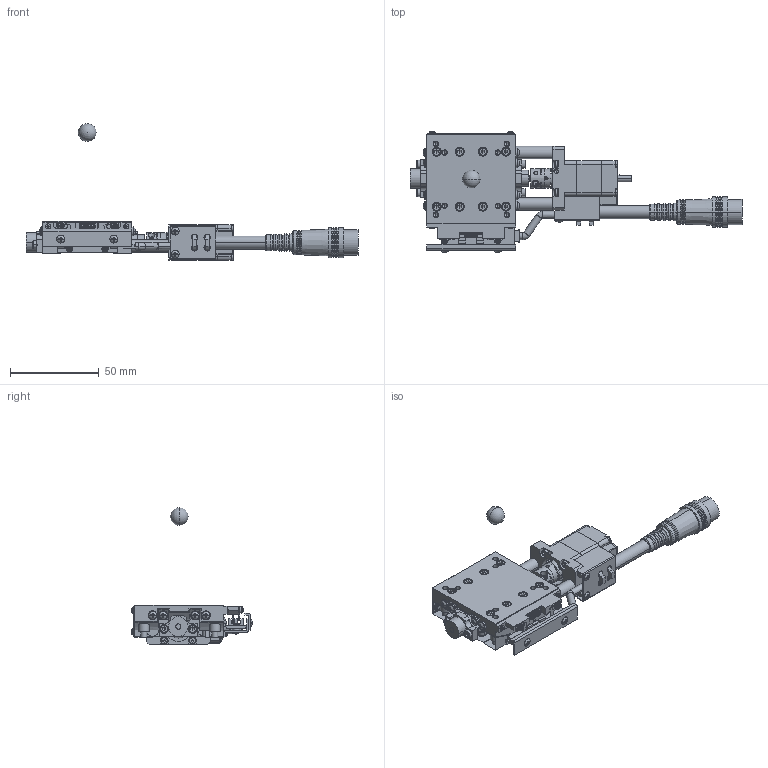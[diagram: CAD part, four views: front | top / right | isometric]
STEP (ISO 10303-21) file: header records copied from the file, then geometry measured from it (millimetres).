
FILE_DESCRIPTION (( 'STEP AP203' ), '1' );
FILE_NAME ('SA05A-R2T01-R.STEP', '2019-12-02T07:27:59', ( '' ), ( '' ), 'SwSTEP 2.0', 'SolidWorks 2018', '' );
FILE_SCHEMA (( 'CONFIG_CONTROL_DESIGN' ));
Length unit declared in the file: millimetre
Products named in the file (8): SA05A-R2T01-R; base-Part-4; base-Part-2; rotation center; base; base-Part-1; base-Part-3; table
Assembly tree (6 placements, depth 3):
  SA05A-R2T01-R
    base
      base-Part-2
      base-Part-3
      base-Part-4
    rotation center
    table
  base-Part-1
Bounding box: 187 x 67.96 x 77 mm (x, y, z)
Volume: 77007 mm3; surface area: 39906.2 mm2
Topology: 8 solids, 11 shells, 2506 faces, 6311 edges, 3923 vertices
Faces by surface type: plane 1584, cylinder 542, cone 190, torus 134, sphere 50, bspline 6
Entity records: 77527 total; most frequent: CARTESIAN_POINT 15845, DIRECTION 13124, ORIENTED_EDGE 12444, EDGE_CURVE 6222, AXIS2_PLACEMENT_3D 4619, VERTEX_POINT 3912, VECTOR 3886, LINE 3886
